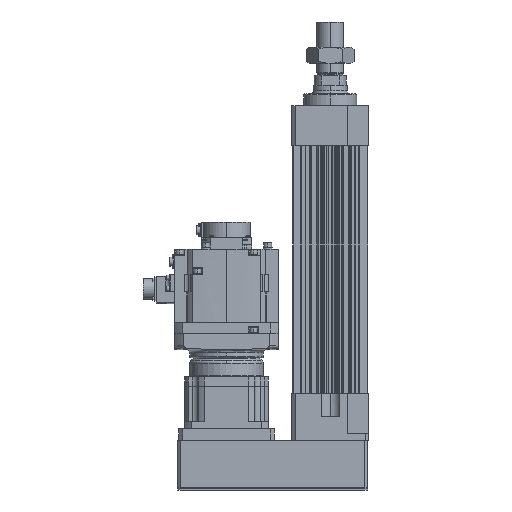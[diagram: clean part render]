
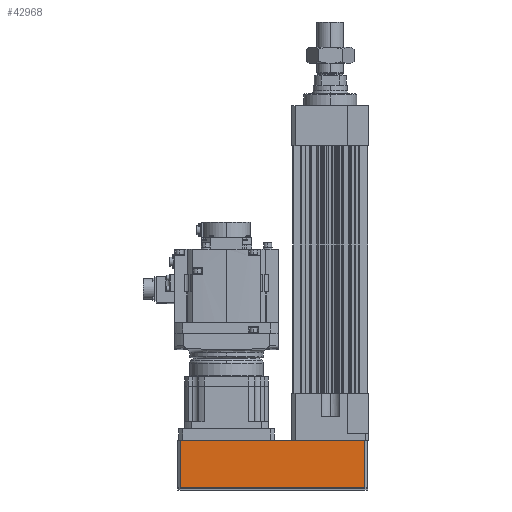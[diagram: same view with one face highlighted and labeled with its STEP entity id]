
A CAD part, left-side view. The second image highlights one B-rep face of the part: STEP entity #42968.
In plain terms, the highlighted planar face has unit normal (-1, 0, 0).
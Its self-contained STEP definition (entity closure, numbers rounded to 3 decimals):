
#1289 = DIRECTION ( 'NONE',  ( 1., 0., 0. ) ) ;
#2996 = VERTEX_POINT ( 'NONE', #50286 ) ;
#4655 = CARTESIAN_POINT ( 'NONE',  ( -63.5, 63.5, 0.5 ) ) ;
#5136 = VECTOR ( 'NONE', #28086, 1000. ) ;
#7244 = AXIS2_PLACEMENT_3D ( 'NONE', #18734, #1289, #9789 ) ;
#7673 = ORIENTED_EDGE ( 'NONE', *, *, #26189, .T. ) ;
#9789 = DIRECTION ( 'NONE',  ( 0., 1., 0. ) ) ;
#9927 = LINE ( 'NONE', #32693, #51731 ) ;
#12438 = DIRECTION ( 'NONE',  ( 0., -1., 0. ) ) ;
#13286 = CARTESIAN_POINT ( 'NONE',  ( -63.5, 59., 0.5 ) ) ;
#15628 = CARTESIAN_POINT ( 'NONE',  ( -63.5, 59., 80.5 ) ) ;
#18194 = PLANE ( 'NONE',  #7244 ) ;
#18734 = CARTESIAN_POINT ( 'NONE',  ( -63.5, 63.5, 81. ) ) ;
#19532 = DIRECTION ( 'NONE',  ( 0., 0., 1. ) ) ;
#20374 = CARTESIAN_POINT ( 'NONE',  ( -63.5, 59., 81. ) ) ;
#20452 = VERTEX_POINT ( 'NONE', #13286 ) ;
#20522 = LINE ( 'NONE', #15628, #5136 ) ;
#20667 = VECTOR ( 'NONE', #12438, 1000. ) ;
#21115 = CARTESIAN_POINT ( 'NONE',  ( -63.5, 59., 80.5 ) ) ;
#23002 = EDGE_CURVE ( 'NONE', #54413, #20452, #50076, .T. ) ;
#23536 = VECTOR ( 'NONE', #33356, 1000. ) ;
#23688 = FACE_OUTER_BOUND ( 'NONE', #53317, .T. ) ;
#26189 = EDGE_CURVE ( 'NONE', #44584, #2996, #9927, .T. ) ;
#28086 = DIRECTION ( 'NONE',  ( 0., 1., 0. ) ) ;
#28357 = EDGE_CURVE ( 'NONE', #2996, #54413, #20522, .T. ) ;
#28759 = CARTESIAN_POINT ( 'NONE',  ( -63.5, -254.5, 0.5 ) ) ;
#32693 = CARTESIAN_POINT ( 'NONE',  ( -63.5, -254.5, 81. ) ) ;
#33356 = DIRECTION ( 'NONE',  ( 0., 0., -1. ) ) ;
#33622 = ORIENTED_EDGE ( 'NONE', *, *, #39146, .T. ) ;
#36677 = ORIENTED_EDGE ( 'NONE', *, *, #23002, .T. ) ;
#39146 = EDGE_CURVE ( 'NONE', #20452, #44584, #44499, .T. ) ;
#39621 = ORIENTED_EDGE ( 'NONE', *, *, #28357, .T. ) ;
#42968 = ADVANCED_FACE ( 'NONE', ( #23688 ), #18194, .F. ) ;
#44499 = LINE ( 'NONE', #4655, #20667 ) ;
#44584 = VERTEX_POINT ( 'NONE', #28759 ) ;
#50076 = LINE ( 'NONE', #20374, #23536 ) ;
#50286 = CARTESIAN_POINT ( 'NONE',  ( -63.5, -254.5, 80.5 ) ) ;
#51731 = VECTOR ( 'NONE', #19532, 1000. ) ;
#53317 = EDGE_LOOP ( 'NONE', ( #36677, #33622, #7673, #39621 ) ) ;
#54413 = VERTEX_POINT ( 'NONE', #21115 ) ;
